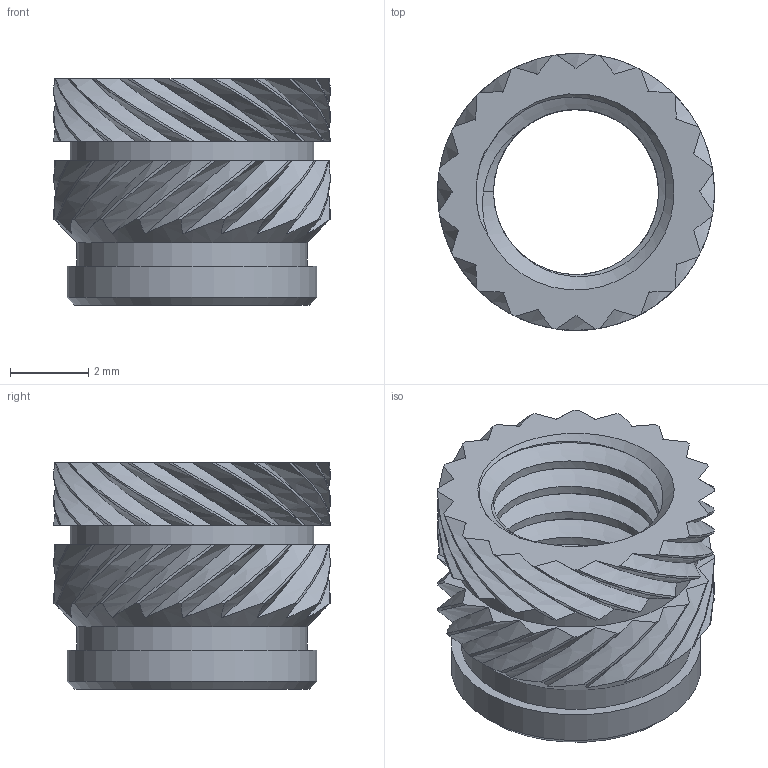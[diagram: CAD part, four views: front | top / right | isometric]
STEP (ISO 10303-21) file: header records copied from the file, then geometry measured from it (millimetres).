
FILE_DESCRIPTION(/* description */ (''),/* implementation_level */ '2;1');
FILE_NAME(/* name */ 'C:/Users/stefa/Desktop/Sync/Podcast/Produkte/Inserts/CAD/M5_Short.step',/* time_stamp */ '2021-08-31T16:54:21+02:00',/* author */ (''),/* organization */ (''),/* preprocessor_version */ 'ST-DEVELOPER v18.1',/* originating_system */ 'Autodesk Translation Framework v10.10.0.1391',/* authorisation */ '');
FILE_SCHEMA (('AUTOMOTIVE_DESIGN { 1 0 10303 214 3 1 1 }'));
Length unit declared in the file: millimetre
Products named in the file (1): Insert_M5_Short
Bounding box: 7.1 x 7.1 x 5.8 mm (x, y, z)
Volume: 96 mm3; surface area: 348.5 mm2
Topology: 1 solids, 12 shells, 343 faces, 946 edges, 630 vertices
Faces by surface type: bspline 183, plane 94, cylinder 60, cone 6
Full cylindrical faces by diameter (mm): 4.234 x2, 5.12 x2, 5.9 x1, 6.25 x1, 6.4 x1
Entity records: 14723 total; most frequent: CARTESIAN_POINT 7442, ORIENTED_EDGE 1892, EDGE_CURVE 946, DIRECTION 840, VERTEX_POINT 630, B_SPLINE_CURVE_WITH_KNOTS 525, EDGE_LOOP 350, FACE_OUTER_BOUND 343
